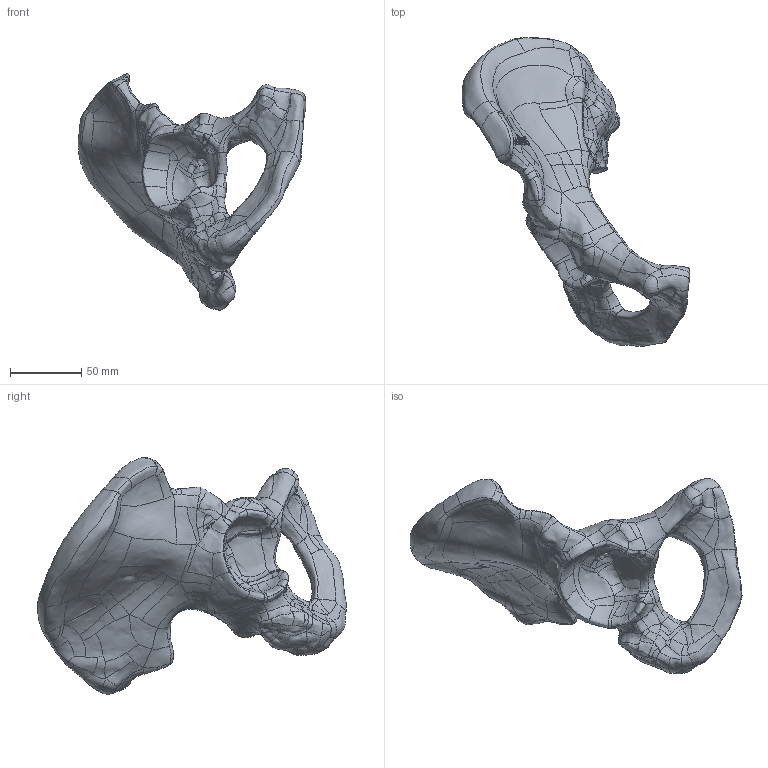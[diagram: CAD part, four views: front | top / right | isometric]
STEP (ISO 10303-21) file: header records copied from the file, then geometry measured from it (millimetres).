
FILE_DESCRIPTION (( 'STEP AP203' ), '1' );
FILE_NAME ('1296.STEP', '2025-06-05T18:52:28', ( '' ), ( '' ), 'SwSTEP 2.0', 'SolidWorks 2024', '' );
FILE_SCHEMA (( 'CONFIG_CONTROL_DESIGN' ));
Products named in the file (1): 1296
Bounding box: 159.4 x 216.09 x 165.37 mm (x, y, z)
Volume: 485253.5 mm3; surface area: 72047 mm2
Topology: 1 solids, 1 shells, 674 faces, 1728 edges, 1064 vertices
Faces by surface type: bspline 673, plane 1
Entity records: 318445 total; most frequent: CARTESIAN_POINT 307666, ORIENTED_EDGE 3456, B_SPLINE_CURVE_WITH_KNOTS 1728, EDGE_CURVE 1728, VERTEX_POINT 1064, EDGE_LOOP 684, ADVANCED_FACE 674, FACE_OUTER_BOUND 674
